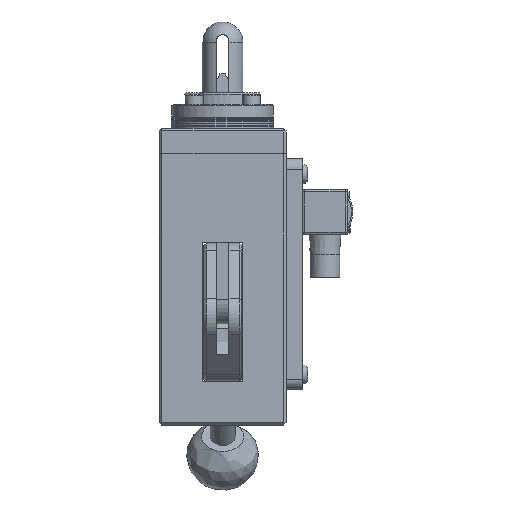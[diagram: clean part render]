
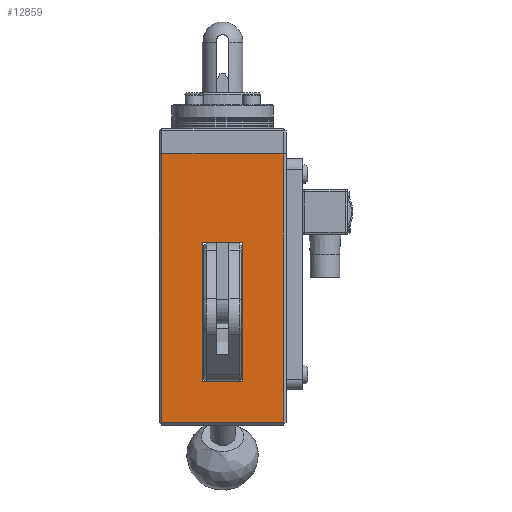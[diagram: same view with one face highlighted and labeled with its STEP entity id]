
A CAD part, left-side view. The second image highlights one B-rep face of the part: STEP entity #12859.
In plain terms, the highlighted planar face has unit normal (-1, 0, 0).
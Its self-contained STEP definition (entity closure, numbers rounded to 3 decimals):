
#362=FACE_BOUND('',#1996,.T.);
#757=PLANE('',#13981);
#1189=FACE_OUTER_BOUND('',#1995,.T.);
#1995=EDGE_LOOP('',(#9348,#9349,#9350,#9351));
#1996=EDGE_LOOP('',(#9352,#9353,#9354,#9355));
#2820=LINE('',#19788,#3758);
#2827=LINE('',#19818,#3765);
#2853=LINE('',#19897,#3791);
#2856=LINE('',#19903,#3794);
#2898=LINE('',#20117,#3836);
#2906=LINE('',#20139,#3844);
#2918=LINE('',#20179,#3856);
#2919=LINE('',#20181,#3857);
#3758=VECTOR('',#15617,10.);
#3765=VECTOR('',#15646,10.);
#3791=VECTOR('',#15722,10.);
#3794=VECTOR('',#15727,10.);
#3836=VECTOR('',#15959,10.);
#3844=VECTOR('',#15981,10.);
#3856=VECTOR('',#16025,10.);
#3857=VECTOR('',#16028,10.);
#5577=VERTEX_POINT('',#19785);
#5578=VERTEX_POINT('',#19787);
#5589=VERTEX_POINT('',#19815);
#5590=VERTEX_POINT('',#19817);
#5618=VERTEX_POINT('',#19895);
#5620=VERTEX_POINT('',#19901);
#5697=VERTEX_POINT('',#20116);
#5704=VERTEX_POINT('',#20138);
#6924=EDGE_CURVE('',#5578,#5577,#2820,.T.);
#6938=EDGE_CURVE('',#5589,#5590,#2827,.T.);
#6975=EDGE_CURVE('',#5618,#5589,#2853,.T.);
#6978=EDGE_CURVE('',#5620,#5618,#2856,.T.);
#7081=EDGE_CURVE('',#5697,#5578,#2898,.T.);
#7091=EDGE_CURVE('',#5704,#5697,#2906,.T.);
#7109=EDGE_CURVE('',#5577,#5704,#2918,.T.);
#7110=EDGE_CURVE('',#5590,#5620,#2919,.T.);
#9348=ORIENTED_EDGE('',*,*,#6975,.F.);
#9349=ORIENTED_EDGE('',*,*,#6978,.F.);
#9350=ORIENTED_EDGE('',*,*,#7110,.F.);
#9351=ORIENTED_EDGE('',*,*,#6938,.F.);
#9352=ORIENTED_EDGE('',*,*,#7081,.T.);
#9353=ORIENTED_EDGE('',*,*,#6924,.T.);
#9354=ORIENTED_EDGE('',*,*,#7109,.T.);
#9355=ORIENTED_EDGE('',*,*,#7091,.T.);
#12859=ADVANCED_FACE('',(#1189,#362),#757,.T.);
#13981=AXIS2_PLACEMENT_3D('',#20180,#16026,#16027);
#15617=DIRECTION('',(0.,0.,1.));
#15646=DIRECTION('',(0.,0.,1.));
#15722=DIRECTION('',(0.,1.,0.));
#15727=DIRECTION('',(0.,0.,-1.));
#15959=DIRECTION('',(0.,1.,0.));
#15981=DIRECTION('',(0.,0.,-1.));
#16025=DIRECTION('',(0.,-1.,0.));
#16026=DIRECTION('center_axis',(-1.,0.,0.));
#16027=DIRECTION('ref_axis',(0.,-1.,0.));
#16028=DIRECTION('',(0.,-1.,0.));
#19785=CARTESIAN_POINT('',(-36.509,7.434,18.5));
#19787=CARTESIAN_POINT('',(-36.509,7.434,-36.5));
#19788=CARTESIAN_POINT('',(-36.509,7.434,-45.));
#19815=CARTESIAN_POINT('',(-36.509,23.434,-52.5));
#19817=CARTESIAN_POINT('',(-36.509,23.434,53.5));
#19818=CARTESIAN_POINT('',(-36.509,23.434,-53.5));
#19895=CARTESIAN_POINT('',(-36.509,-24.566,-52.5));
#19897=CARTESIAN_POINT('',(-36.509,-6.816,-52.5));
#19901=CARTESIAN_POINT('',(-36.509,-24.566,53.5));
#19903=CARTESIAN_POINT('',(-36.509,-24.566,-53.5));
#20116=CARTESIAN_POINT('',(-36.509,-8.566,-36.5));
#20117=CARTESIAN_POINT('',(-36.509,-0.566,-36.5));
#20138=CARTESIAN_POINT('',(-36.509,-8.566,18.5));
#20139=CARTESIAN_POINT('',(-36.509,-8.566,-45.));
#20179=CARTESIAN_POINT('',(-36.509,-4.566,18.5));
#20180=CARTESIAN_POINT('Origin',(-36.509,-0.566,-53.5));
#20181=CARTESIAN_POINT('',(-36.509,-0.566,53.5));
